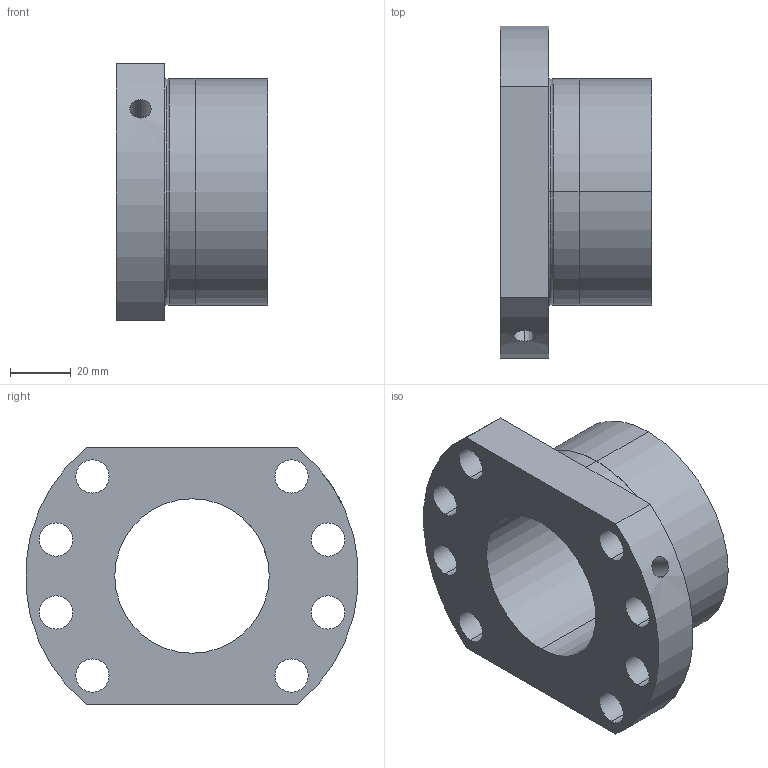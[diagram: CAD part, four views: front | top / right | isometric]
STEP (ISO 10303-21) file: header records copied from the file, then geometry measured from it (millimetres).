
FILE_DESCRIPTION (( 'STEP AP214' ), '1' );
FILE_NAME ('LLE5005-F.STEP', '2020-12-17T07:00:15', ( 'user' ), ( 'datathink' ), 'SwSTEP 2.0', 'SolidWorks 2013', '' );
FILE_SCHEMA (( 'AUTOMOTIVE_DESIGN' ));
Length unit declared in the file: millimetre
Products named in the file (1): LLE5005-F
Bounding box: 50 x 109.65 x 85 mm (x, y, z)
Volume: 166743.7 mm3; surface area: 37430.6 mm2
Topology: 1 solids, 1 shells, 36 faces, 92 edges, 60 vertices
Faces by surface type: cylinder 26, plane 6, torus 4
Entity records: 1340 total; most frequent: CARTESIAN_POINT 321, DIRECTION 218, ORIENTED_EDGE 184, AXIS2_PLACEMENT_3D 93, EDGE_CURVE 92, VERTEX_POINT 60, EDGE_LOOP 58, CIRCLE 56
